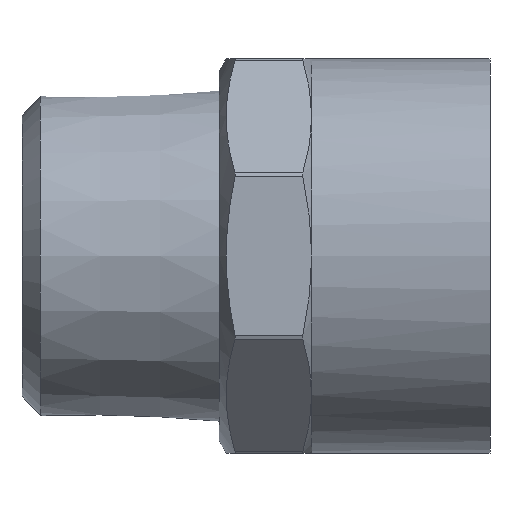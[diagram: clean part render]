
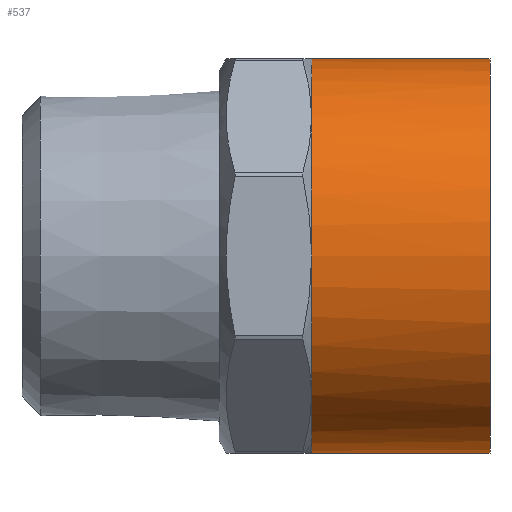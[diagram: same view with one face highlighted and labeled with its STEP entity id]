
A CAD part, front view. The second image highlights one B-rep face of the part: STEP entity #537.
In plain terms, the highlighted cylindrical face has radius 16 mm (diameter 32 mm), a full revolution.
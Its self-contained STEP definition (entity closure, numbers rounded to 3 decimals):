
#25=CYLINDRICAL_SURFACE('',#607,16.);
#103=FACE_BOUND('',#183,.T.);
#138=FACE_OUTER_BOUND('',#182,.T.);
#182=EDGE_LOOP('',(#481));
#183=EDGE_LOOP('',(#482,#483,#484,#485,#486,#487,#488,#489));
#190=CIRCLE('',#556,16.);
#192=CIRCLE('',#559,16.);
#194=CIRCLE('',#562,16.);
#196=CIRCLE('',#565,16.);
#198=CIRCLE('',#568,16.);
#200=CIRCLE('',#571,16.);
#203=CIRCLE('',#575,16.);
#218=CIRCLE('',#606,16.);
#219=CIRCLE('',#608,16.);
#227=VERTEX_POINT('',#786);
#232=VERTEX_POINT('',#803);
#237=VERTEX_POINT('',#820);
#242=VERTEX_POINT('',#837);
#247=VERTEX_POINT('',#854);
#252=VERTEX_POINT('',#871);
#257=VERTEX_POINT('',#888);
#259=VERTEX_POINT('',#898);
#269=VERTEX_POINT('',#971);
#309=EDGE_CURVE('',#259,#257,#190,.T.);
#312=EDGE_CURVE('',#257,#252,#192,.T.);
#314=EDGE_CURVE('',#252,#247,#194,.T.);
#316=EDGE_CURVE('',#247,#242,#196,.T.);
#318=EDGE_CURVE('',#242,#237,#198,.T.);
#320=EDGE_CURVE('',#237,#232,#200,.T.);
#324=EDGE_CURVE('',#227,#259,#203,.T.);
#342=EDGE_CURVE('',#232,#227,#218,.T.);
#343=EDGE_CURVE('',#269,#269,#219,.T.);
#481=ORIENTED_EDGE('',*,*,#343,.F.);
#482=ORIENTED_EDGE('',*,*,#309,.T.);
#483=ORIENTED_EDGE('',*,*,#312,.T.);
#484=ORIENTED_EDGE('',*,*,#314,.T.);
#485=ORIENTED_EDGE('',*,*,#316,.T.);
#486=ORIENTED_EDGE('',*,*,#318,.T.);
#487=ORIENTED_EDGE('',*,*,#320,.T.);
#488=ORIENTED_EDGE('',*,*,#342,.T.);
#489=ORIENTED_EDGE('',*,*,#324,.T.);
#537=ADVANCED_FACE('',(#138,#103),#25,.T.);
#556=AXIS2_PLACEMENT_3D('',#899,#656,#657);
#559=AXIS2_PLACEMENT_3D('',#906,#662,#663);
#562=AXIS2_PLACEMENT_3D('',#909,#668,#669);
#565=AXIS2_PLACEMENT_3D('',#912,#674,#675);
#568=AXIS2_PLACEMENT_3D('',#915,#680,#681);
#571=AXIS2_PLACEMENT_3D('',#918,#686,#687);
#575=AXIS2_PLACEMENT_3D('',#926,#694,#695);
#606=AXIS2_PLACEMENT_3D('',#969,#758,#759);
#607=AXIS2_PLACEMENT_3D('',#970,#760,#761);
#608=AXIS2_PLACEMENT_3D('',#972,#762,#763);
#656=DIRECTION('center_axis',(1.,0.,0.));
#657=DIRECTION('ref_axis',(0.,1.,0.));
#662=DIRECTION('center_axis',(1.,0.,0.));
#663=DIRECTION('ref_axis',(0.,1.,0.));
#668=DIRECTION('center_axis',(1.,0.,0.));
#669=DIRECTION('ref_axis',(0.,1.,0.));
#674=DIRECTION('center_axis',(1.,0.,0.));
#675=DIRECTION('ref_axis',(0.,1.,0.));
#680=DIRECTION('center_axis',(1.,0.,0.));
#681=DIRECTION('ref_axis',(0.,1.,0.));
#686=DIRECTION('center_axis',(1.,0.,0.));
#687=DIRECTION('ref_axis',(0.,1.,0.));
#694=DIRECTION('center_axis',(1.,0.,0.));
#695=DIRECTION('ref_axis',(0.,1.,0.));
#758=DIRECTION('center_axis',(1.,0.,0.));
#759=DIRECTION('ref_axis',(0.,1.,0.));
#760=DIRECTION('center_axis',(1.,0.,0.));
#761=DIRECTION('ref_axis',(0.,1.,0.));
#762=DIRECTION('center_axis',(1.,0.,0.));
#763=DIRECTION('ref_axis',(0.,1.,0.));
#786=CARTESIAN_POINT('',(23.521,11.314,11.314));
#803=CARTESIAN_POINT('',(23.521,16.,0.));
#820=CARTESIAN_POINT('',(23.521,11.314,-11.314));
#837=CARTESIAN_POINT('',(23.521,0.,-16.));
#854=CARTESIAN_POINT('',(23.521,-11.314,-11.314));
#871=CARTESIAN_POINT('',(23.521,-16.,0.));
#888=CARTESIAN_POINT('',(23.521,-11.314,11.314));
#898=CARTESIAN_POINT('',(23.521,0.,16.));
#899=CARTESIAN_POINT('Origin',(23.521,0.,0.));
#906=CARTESIAN_POINT('Origin',(23.521,0.,0.));
#909=CARTESIAN_POINT('Origin',(23.521,0.,0.));
#912=CARTESIAN_POINT('Origin',(23.521,0.,0.));
#915=CARTESIAN_POINT('Origin',(23.521,0.,0.));
#918=CARTESIAN_POINT('Origin',(23.521,0.,0.));
#926=CARTESIAN_POINT('Origin',(23.521,0.,0.));
#969=CARTESIAN_POINT('Origin',(23.521,0.,0.));
#970=CARTESIAN_POINT('Origin',(30.76,0.,0.));
#971=CARTESIAN_POINT('',(38.,16.,0.));
#972=CARTESIAN_POINT('Origin',(38.,0.,0.));
